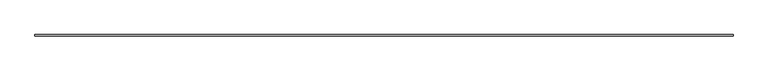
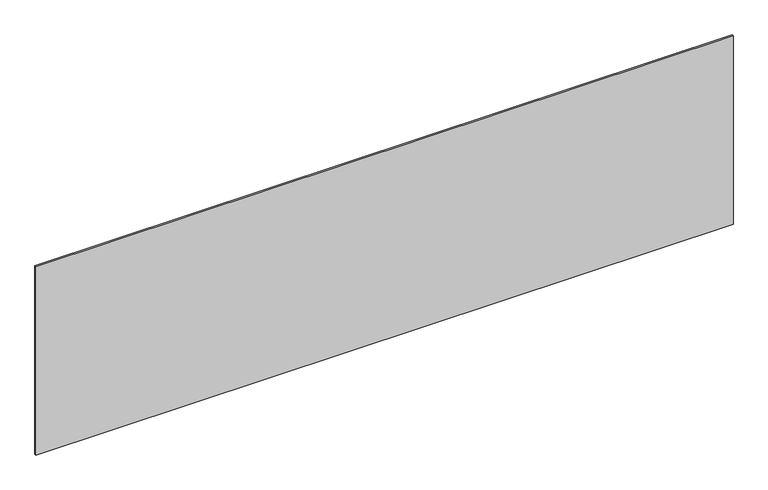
"""IFC4 building model written with IfcOpenShell, lengths in millimetres: plate geometry, システム パネル : 標準."""

from ifc_helpers import new_model, si_unit, origin, origin_with_axes, place, context, project, spatial, polyline, outline, extrude, source, transform, mapped, element, save


def plate_757115cb(model_context):
    return source(origin(), model_context, "Body", "SweptSolid", [
        extrude(outline(polyline([(2281.6666667, -5.0), (-2281.6666667, -5.0), (-2281.6666667, 5.0), (2281.6666667, 5.0), (2281.6666667, -5.0)])), origin_with_axes(), (0.0, 0.0, 1.0), 1302.8439899),
    ])


if __name__ == "__main__":
    model = new_model("IFC4")
    model_context = context("Model", 3, world=origin())
    ifc_project = project(units=[si_unit("LENGTHUNIT", "METRE", prefix="MILLI")], contexts=[model_context])
    site = spatial("IfcSite", under=ifc_project)
    building = spatial("IfcBuilding", under=site)
    placement = place(None, origin())
    plate_shape = plate_757115cb(model_context)
    element("IfcPlate", 1, ObjectType="システム パネル : 標準", at=placement, inside=building, context=model_context, shape_type="MappedRepresentation", body=[
        mapped(plate_shape, transform((0.0, 0.0, 0.0), x_axis=(1.0, 0.0, 0.0), y_axis=(0.0, 1.0, 0.0), z_axis=(0.0, 0.0, 1.0))),
    ])
    save(model, "model.ifc")
